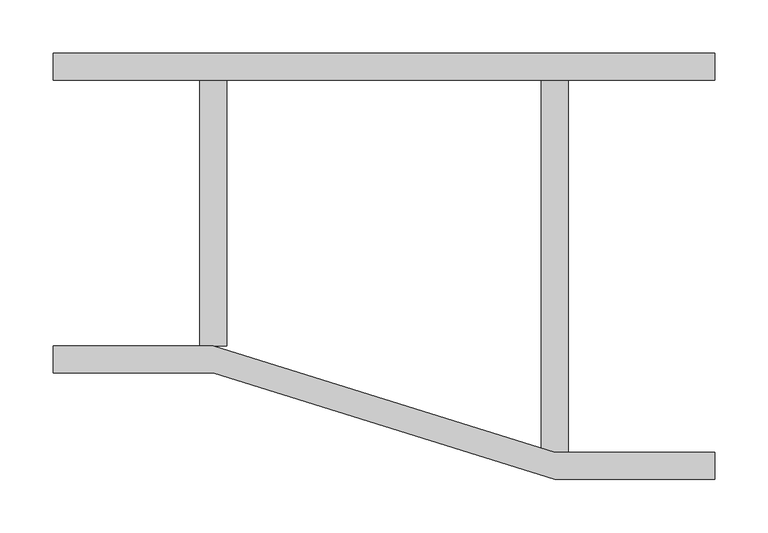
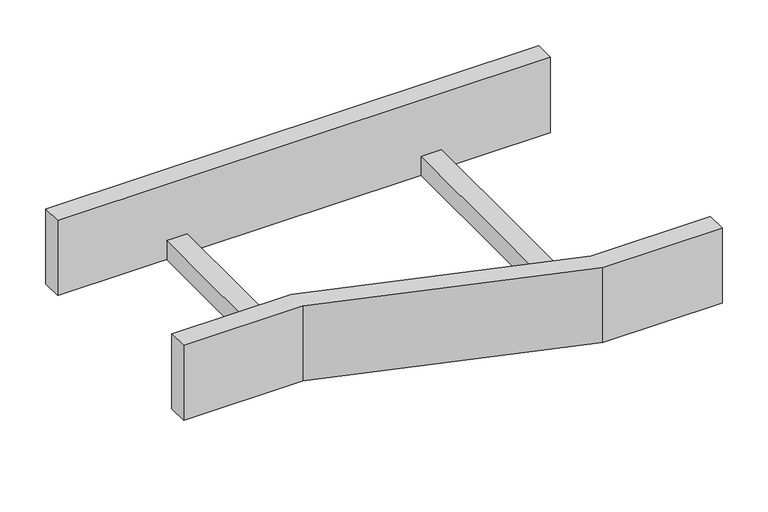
"""IFC4 building model written with IfcOpenShell, lengths in millimetres: cable carrier fitting geometry, BAKS_LDLS_RED_Straight reducer_RDS : R(S/L/P)DSC_H100."""

from ifc_helpers import new_model, si_unit, frame, origin, place, context, project, spatial, polyline, outline, extrude, source, transform, mapped, element, save


def cable_carrier_fitting_a95698cb(model_context):
    return source(origin(), model_context, "Body", "SweptSolid", [
        extrude(outline(polyline([(0.0, -150.0), (0.0, -124.6), (150.0, -124.6), (470.0, -224.6), (620.0, -224.6), (620.0, -250.0), (470.0, -250.0), (150.0, -150.0), (0.0, -150.0)])), frame((0.0, 0.0, -50.0), z_axis=(0.0, 0.0, 1.0), x_axis=(1.0, 0.0, 0.0)), (0.0, 0.0, 1.0), 100.0),
        extrude(outline(polyline([(0.0, 124.6), (0.0, 150.0), (620.0, 150.0), (620.0, 124.6), (0.0, 124.6)])), frame((0.0, 0.0, -50.0), z_axis=(0.0, 0.0, 1.0), x_axis=(1.0, 0.0, 0.0)), (0.0, 0.0, 1.0), 100.0),
        extrude(outline(polyline([(457.3, 124.6), (482.7, 124.6), (482.7, -224.6), (457.3, -224.6), (457.3, 124.6)])), frame((0.0, 0.0, -50.0), z_axis=(0.0, 0.0, 1.0), x_axis=(1.0, 0.0, 0.0)), (0.0, 0.0, 1.0), 25.4),
        extrude(outline(polyline([(137.3, 124.6), (162.7, 124.6), (162.7, -124.6), (137.3, -124.6), (137.3, 124.6)])), frame((0.0, 0.0, -50.0), z_axis=(0.0, 0.0, 1.0), x_axis=(1.0, 0.0, 0.0)), (0.0, 0.0, 1.0), 25.4),
    ])


if __name__ == "__main__":
    model = new_model("IFC4")
    model_context = context("Model", 3, world=origin())
    ifc_project = project(units=[si_unit("LENGTHUNIT", "METRE", prefix="MILLI")], contexts=[model_context])
    site = spatial("IfcSite", under=ifc_project)
    building = spatial("IfcBuilding", under=site)
    placement = place(None, origin())
    cable_carrier_fitting_shape = cable_carrier_fitting_a95698cb(model_context)
    element("IfcCableCarrierFitting", 1, ObjectType="BAKS_LDLS_RED_Straight reducer_RDS : R(S/L/P)DSC_H100", at=placement, inside=building, context=model_context, shape_type="MappedRepresentation", body=[
        mapped(cable_carrier_fitting_shape, transform((0.0, 0.0, 0.0), x_axis=(1.0, 0.0, 0.0), y_axis=(0.0, 1.0, 0.0), z_axis=(0.0, 0.0, 1.0))),
    ])
    save(model, "model.ifc")
